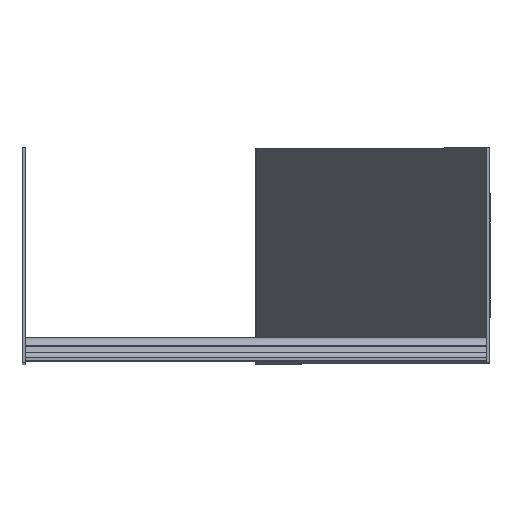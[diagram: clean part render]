
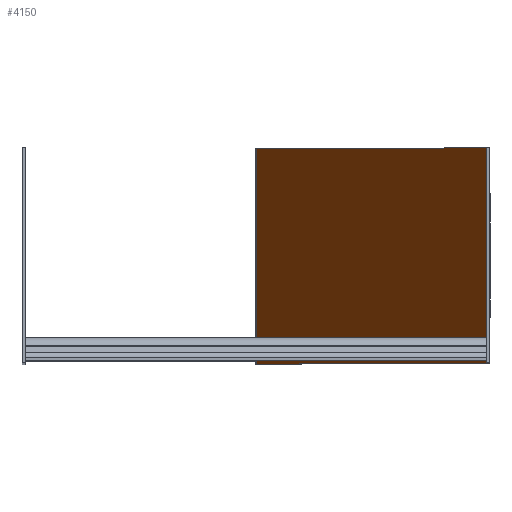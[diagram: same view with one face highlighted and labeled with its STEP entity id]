
A CAD part, top view. The second image highlights one B-rep face of the part: STEP entity #4150.
In plain terms, the highlighted planar face has unit normal (-0.881, 0, 0.472).
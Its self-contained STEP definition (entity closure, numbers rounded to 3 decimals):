
#242 = VERTEX_POINT ( 'NONE', #316 ) ;
#316 = CARTESIAN_POINT ( 'NONE',  ( 75.415, 0., -279.226 ) ) ;
#467 = CARTESIAN_POINT ( 'NONE',  ( 224.822, 140., -0.332 ) ) ;
#533 = LINE ( 'NONE', #5641, #5273 ) ;
#805 = DIRECTION ( 'NONE',  ( 0., 1., 0. ) ) ;
#854 = DIRECTION ( 'NONE',  ( 0., 1., 0. ) ) ;
#914 = FACE_OUTER_BOUND ( 'NONE', #4461, .T. ) ;
#1092 = EDGE_CURVE ( 'NONE', #5393, #6506, #533, .T. ) ;
#1312 = ORIENTED_EDGE ( 'NONE', *, *, #1092, .T. ) ;
#1464 = DIRECTION ( 'NONE',  ( 0.472, 0., 0.881 ) ) ;
#1487 = CARTESIAN_POINT ( 'NONE',  ( 224.822, 0., -0.332 ) ) ;
#1501 = CARTESIAN_POINT ( 'NONE',  ( 225., 140., 0. ) ) ;
#1749 = DIRECTION ( 'NONE',  ( -0.472, 0., -0.881 ) ) ;
#1876 = VERTEX_POINT ( 'NONE', #8204 ) ;
#2609 = LINE ( 'NONE', #3313, #6341 ) ;
#3155 = VECTOR ( 'NONE', #854, 1000. ) ;
#3313 = CARTESIAN_POINT ( 'NONE',  ( 75.415, 0., -279.226 ) ) ;
#3470 = PLANE ( 'NONE',  #5743 ) ;
#3519 = CARTESIAN_POINT ( 'NONE',  ( 75.415, 140., -279.226 ) ) ;
#4052 = VECTOR ( 'NONE', #6661, 1000. ) ;
#4150 = ADVANCED_FACE ( 'NONE', ( #914 ), #3470, .T. ) ;
#4461 = EDGE_LOOP ( 'NONE', ( #8048, #6590, #5027, #1312 ) ) ;
#5027 = ORIENTED_EDGE ( 'NONE', *, *, #7363, .T. ) ;
#5273 = VECTOR ( 'NONE', #1749, 1000. ) ;
#5316 = CARTESIAN_POINT ( 'NONE',  ( 225., 0., 0. ) ) ;
#5393 = VERTEX_POINT ( 'NONE', #467 ) ;
#5641 = CARTESIAN_POINT ( 'NONE',  ( 225., 140., 0. ) ) ;
#5743 = AXIS2_PLACEMENT_3D ( 'NONE', #1501, #6611, #1464 ) ;
#6070 = LINE ( 'NONE', #5316, #4052 ) ;
#6341 = VECTOR ( 'NONE', #805, 1000. ) ;
#6506 = VERTEX_POINT ( 'NONE', #3519 ) ;
#6512 = EDGE_CURVE ( 'NONE', #1876, #242, #6070, .T. ) ;
#6590 = ORIENTED_EDGE ( 'NONE', *, *, #6512, .F. ) ;
#6611 = DIRECTION ( 'NONE',  ( -0.881, 0., 0.472 ) ) ;
#6661 = DIRECTION ( 'NONE',  ( -0.472, 0., -0.881 ) ) ;
#7228 = LINE ( 'NONE', #1487, #3155 ) ;
#7363 = EDGE_CURVE ( 'NONE', #1876, #5393, #7228, .T. ) ;
#7769 = EDGE_CURVE ( 'NONE', #242, #6506, #2609, .T. ) ;
#8048 = ORIENTED_EDGE ( 'NONE', *, *, #7769, .F. ) ;
#8204 = CARTESIAN_POINT ( 'NONE',  ( 224.822, 0., -0.332 ) ) ;
